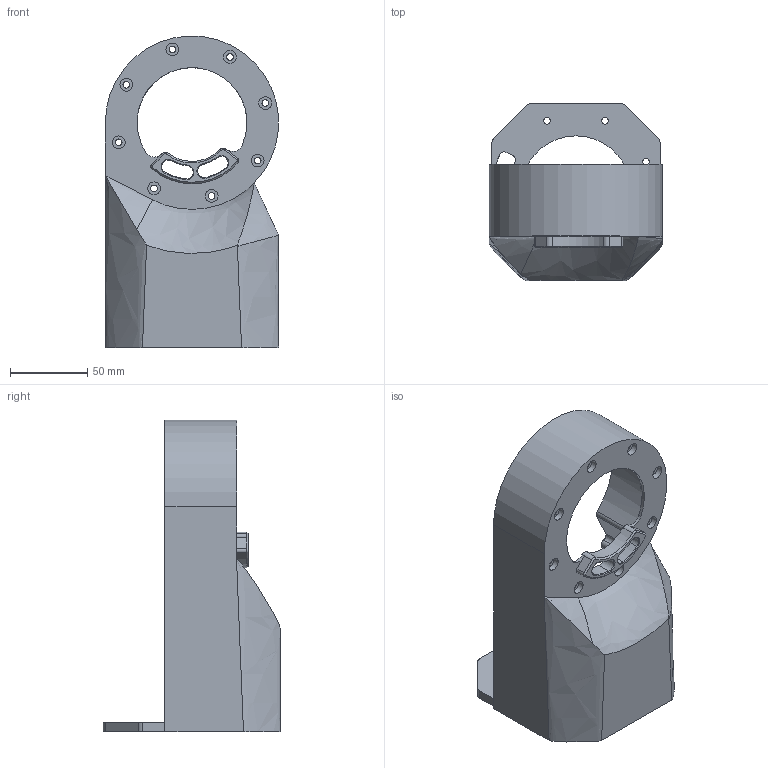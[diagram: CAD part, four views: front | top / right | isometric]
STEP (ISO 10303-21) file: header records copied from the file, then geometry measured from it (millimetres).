
FILE_DESCRIPTION(/* description */ ('STEP AP242 Edition 2','CAx-IF Rec.Pracs.---Representation and Presentation of Product Manufacturing Information (PMI)---4.0---2014-10-13','CAx-IF Rec.Pracs.---3D Tessellated Geometry---0.4---2014-09-14','2;1','CAx-IF Rec.Pracs.---User Defined Attributes---1.5---2016-08-15'),/* implementation_level */ '2;1');
FILE_NAME(/* name */ 'Assy_ForMFG - KD-D-201R',/* time_stamp */ '2026-05-15T19:56:34Z',/* author */ (''),/* organization */ (''),/* preprocessor_version */ 'ST-DEVELOPER v20',/* originating_system */ 'ONSHAPE BY PTC INC, 1.215',/* authorisation */ ' ');
FILE_SCHEMA (('AP242_MANAGED_MODEL_BASED_3D_ENGINEERING_MIM_LF { 1 0 10303 442 3 1 4 }'));
Length unit declared in the file: metre
Products named in the file (1): KD-D-201R
Bounding box: 112 x 114.5 x 201.45 mm (x, y, z)
Volume: 159351.9 mm3; surface area: 106230.8 mm2
Topology: 1 solids, 1 shells, 262 faces, 684 edges, 439 vertices
Faces by surface type: cylinder 121, plane 69, torus 35, cone 20, bspline 17
Full cylindrical faces by diameter (mm): 3 x2, 3.3 x2, 4.3 x14, 8.25 x14, 10.25 x2, 71 x1
Entity records: 9516 total; most frequent: CARTESIAN_POINT 3236, DIRECTION 1333, ORIENTED_EDGE 1244, EDGE_CURVE 622, AXIS2_PLACEMENT_3D 561, VERTEX_POINT 425, FACE_BOUND 363, EDGE_LOOP 359
